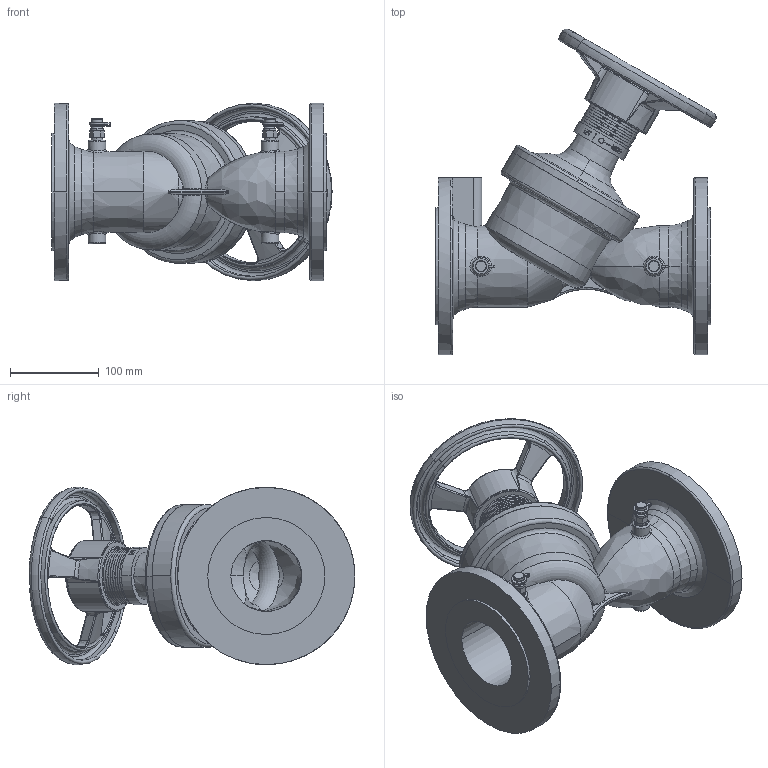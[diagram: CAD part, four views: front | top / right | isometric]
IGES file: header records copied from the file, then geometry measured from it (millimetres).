
Global section: file name: No Iges File Name specified; native system: AutoDesk Inventor R12.0; preprocessor: AutoDesk Inventor Iges Exporter R12.0; date: 20110225.110638; units: millimetre
Bounding box: 316.32 x 367.61 x 200.17 mm (x, y, z)
Volume: 2643859.6 mm3; surface area: 515497 mm2
Topology: 1 solids, 4 shells, 1020 faces, 2632 edges, 1683 vertices
Faces by surface type: plane 345, bspline 305, revolution 134, cylinder 111, cone 75, torus 50
